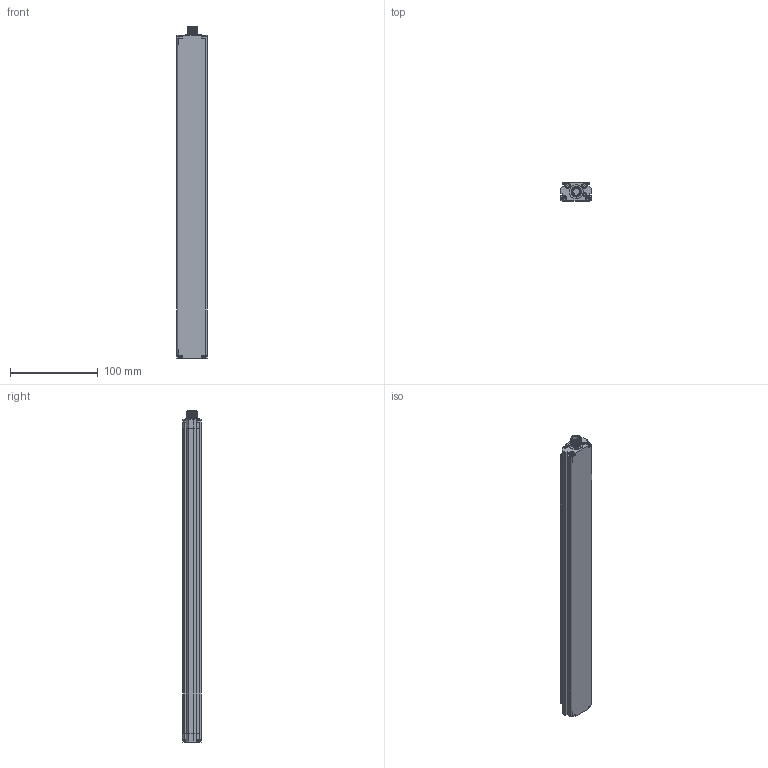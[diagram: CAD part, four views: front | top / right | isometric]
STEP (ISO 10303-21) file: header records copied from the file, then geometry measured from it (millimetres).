
FILE_DESCRIPTION((''),'2;1');
FILE_NAME('C:\TurckZip\LT10E-Q21-H1.stp','2012-02-22T11:39:18',('IKOROL'),(''),'Autodesk Inventor 2010','Autodesk Inventor 2010','');
FILE_SCHEMA(('AUTOMOTIVE_DESIGN { 1 2 10303 214 0 1 1 1 }'));
Length unit declared in the file: millimetre
Products named in the file (1): Part4
Bounding box: 34.8 x 20.9 x 379.06 mm (x, y, z)
Volume: 247182.8 mm3; surface area: 48724.9 mm2
Topology: 3 solids, 3 shells, 298 faces, 760 edges, 493 vertices
Faces by surface type: plane 198, cylinder 65, cone 22, torus 10, bspline 3
Full cylindrical faces by diameter (mm): 3 x1, 5.39 x8, 8 x1, 8.3 x1, 9 x1, 9.4 x1, 9.9 x1, 10 x1, 10.5 x1, 10.982 x1, 16 x1
Entity records: 9132 total; most frequent: CARTESIAN_POINT 1654, DIRECTION 1459, ORIENTED_EDGE 1402, EDGE_CURVE 701, VECTOR 531, LINE 531, VERTEX_POINT 484, AXIS2_PLACEMENT_3D 464
